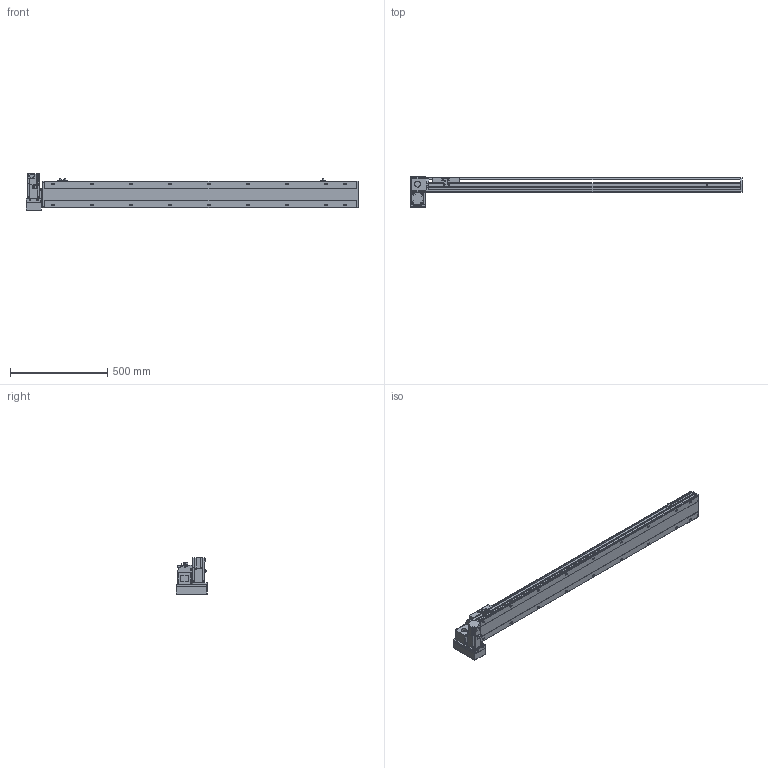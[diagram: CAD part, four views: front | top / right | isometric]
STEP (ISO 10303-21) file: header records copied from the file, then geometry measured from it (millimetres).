
FILE_DESCRIPTION( ( 'STEP AP214' ), '1' );
FILE_NAME( 'x:/temp/worker_27/temp/exporttempdir_6708_568_kjwSk/format_0/PBS140-P40-S1350-LD-T40-C1-N(0).stp', '2022-06-06T05:55:11', ( 'License CC BY-ND 4.0' ), ( 'CADENAS' ), ' ', 'PARTsolutions', ' ' );
FILE_SCHEMA( ( 'AUTOMOTIVE_DESIGN { 1 0 10303 214 1 1 1 1 }' ) );
Length unit declared in the file: millimetre
Products named in the file (7): PBS140-P40-S1350-LD-T40-C1-N(0); _PBS140-S1350()_body; _PBS140T-LD_motors; _T40-p1; _PBS140_sliser; _PBS140_plant; _PBS140_sensor
Assembly tree (8 placements, depth 2):
  PBS140-P40-S1350-LD-T40-C1-N(0)
    _PBS140-S1350()_body
    _PBS140T-LD_motors
    _T40-p1
    _PBS140_sliser
    _PBS140_plant
    _PBS140_sensor  x3
Bounding box: 1704 x 162 x 189.7 mm (x, y, z)
Volume: 7979451 mm3; surface area: 1382675.3 mm2
Topology: 8 solids, 8 shells, 1091 faces, 2876 edges, 1879 vertices
Faces by surface type: plane 698, cylinder 339, cone 44, sphere 8, torus 2
Full cylindrical faces by diameter (mm): 3.242 x4, 4 x2, 4.134 x4, 4.4 x8, 4.5 x2, 4.8 x4, 4.917 x26, 5.5 x7, 6 x2, 7 x20, 7.5 x8, 8 x12, 8.5 x4, 10.5 x18, 14 x1, 30 x2, 50 x2
Entity records: 39931 total; most frequent: CARTESIAN_POINT 6419, DIRECTION 5267, ORIENTED_EDGE 4972, EDGE_CURVE 2486, AXIS2_PLACEMENT_3D 1837, VERTEX_POINT 1725, LINE 1593, VECTOR 1593
